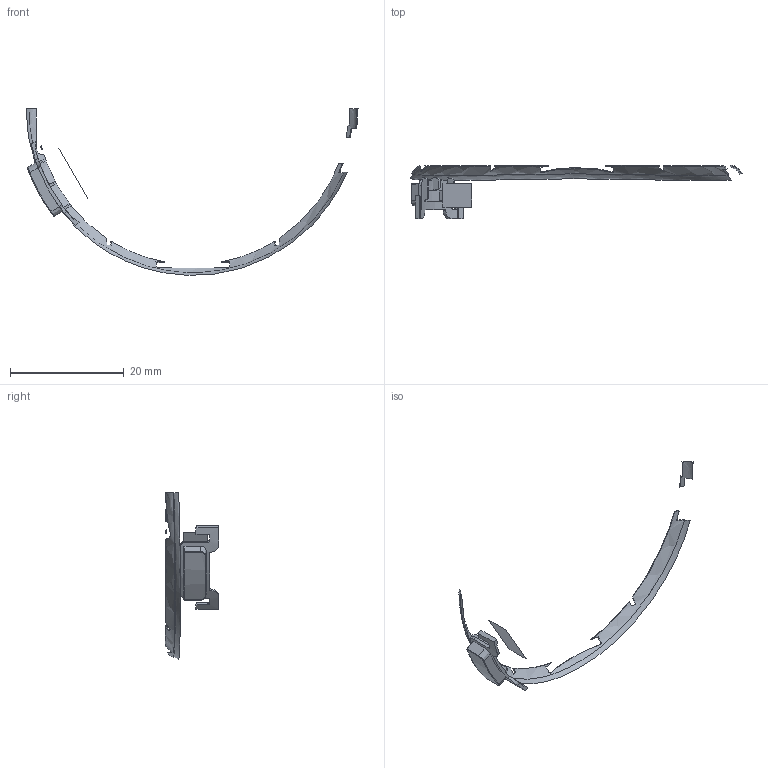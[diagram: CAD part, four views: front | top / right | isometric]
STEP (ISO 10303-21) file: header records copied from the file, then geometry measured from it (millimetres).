
FILE_DESCRIPTION((''),'2;1');
FILE_NAME('GTC01-A-MKT02_PRT','2008-06-30T',('GRA'),(''),'PRO/ENGINEER BY PARAMETRIC TECHNOLOGY CORPORATION, 2006170','PRO/ENGINEER BY PARAMETRIC TECHNOLOGY CORPORATION, 2006170','');
FILE_SCHEMA(('CONFIG_CONTROL_DESIGN'));
Length unit declared in the file: millimetre
Products named in the file (1): GTC01-A-MKT02_PRT
Bounding box: 58.33 x 9.4 x 29.31 mm (x, y, z)
Volume: 90.9 mm3; surface area: 712.6 mm2
Topology: 1 solids, 8 shells, 85 faces, 296 edges, 222 vertices
Faces by surface type: plane 38, bspline 21, cylinder 12, extrusion 11, sphere 2, cone 1
Entity records: 6296 total; most frequent: CARTESIAN_POINT 4134, ORIENTED_EDGE 506, EDGE_CURVE 296, DIRECTION 257, VERTEX_POINT 222, B_SPLINE_CURVE_WITH_KNOTS 186, VECTOR 115, LINE 104
